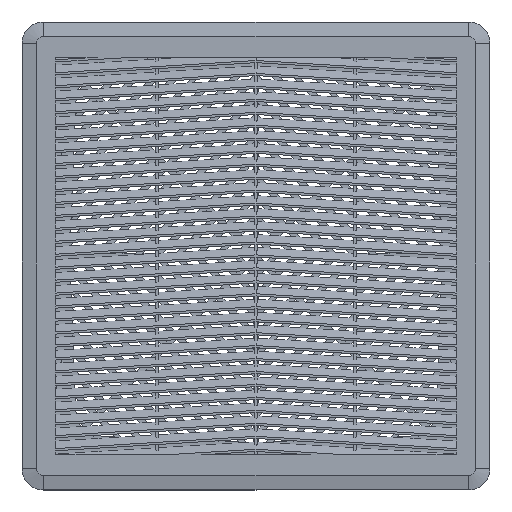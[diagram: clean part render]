
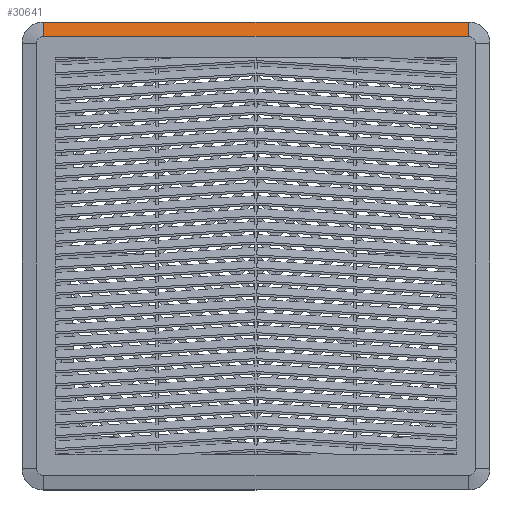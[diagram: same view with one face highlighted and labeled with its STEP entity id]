
A CAD part, top view. The second image highlights one B-rep face of the part: STEP entity #30641.
In plain terms, the highlighted planar face has unit normal (0, 0.208, 0.978).
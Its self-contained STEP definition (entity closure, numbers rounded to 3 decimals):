
#605 = FACE_OUTER_BOUND ( 'NONE', #32601, .T. ) ;
#1438 = CARTESIAN_POINT ( 'NONE',  ( 0., 152.5, 9.5 ) ) ;
#1440 = PLANE ( 'NONE',  #46485 ) ;
#1442 = DIRECTION ( 'NONE',  ( 0., 0.208, 0.978 ) ) ;
#1443 = DIRECTION ( 'NONE',  ( 1., 0., 0. ) ) ;
#1870 = VERTEX_POINT ( 'NONE', #8608 ) ;
#1872 = VERTEX_POINT ( 'NONE', #8609 ) ;
#1885 = VERTEX_POINT ( 'NONE', #8615 ) ;
#1922 = VERTEX_POINT ( 'NONE', #8632 ) ;
#3877 = LINE ( 'NONE', #4745, #4122 ) ;
#4117 = LINE ( 'NONE', #4987, #4120 ) ;
#4120 = VECTOR ( 'NONE', #4989, 1000. ) ;
#4122 = VECTOR ( 'NONE', #4990, 1000. ) ;
#4745 = CARTESIAN_POINT ( 'NONE',  ( -147.5, 152.5, 9.5 ) ) ;
#4987 = CARTESIAN_POINT ( 'NONE',  ( 147.5, 162.5, 7.374 ) ) ;
#4989 = DIRECTION ( 'NONE',  ( 0., -0.978, 0.208 ) ) ;
#4990 = DIRECTION ( 'NONE',  ( 0., 0.978, -0.208 ) ) ;
#8608 = CARTESIAN_POINT ( 'NONE',  ( -147.5, 152.5, 9.5 ) ) ;
#8609 = CARTESIAN_POINT ( 'NONE',  ( 147.5, 152.5, 9.5 ) ) ;
#8615 = CARTESIAN_POINT ( 'NONE',  ( 147.5, 162.5, 7.374 ) ) ;
#8632 = CARTESIAN_POINT ( 'NONE',  ( -147.5, 162.5, 7.374 ) ) ;
#14259 = ORIENTED_EDGE ( 'NONE', *, *, #43101, .F. ) ;
#14261 = ORIENTED_EDGE ( 'NONE', *, *, #20997, .F. ) ;
#14263 = ORIENTED_EDGE ( 'NONE', *, *, #43102, .F. ) ;
#14264 = ORIENTED_EDGE ( 'NONE', *, *, #21009, .F. ) ;
#20997 = EDGE_CURVE ( 'NONE', #1922, #1885, #24658, .T. ) ;
#21009 = EDGE_CURVE ( 'NONE', #1872, #1870, #24676, .T. ) ;
#24658 = LINE ( 'NONE', #25531, #24667 ) ;
#24667 = VECTOR ( 'NONE', #25544, 1000. ) ;
#24676 = LINE ( 'NONE', #25553, #24678 ) ;
#24678 = VECTOR ( 'NONE', #25554, 1000. ) ;
#25531 = CARTESIAN_POINT ( 'NONE',  ( 147.5, 162.5, 7.374 ) ) ;
#25544 = DIRECTION ( 'NONE',  ( 1., 0., 0. ) ) ;
#25553 = CARTESIAN_POINT ( 'NONE',  ( -147.5, 152.5, 9.5 ) ) ;
#25554 = DIRECTION ( 'NONE',  ( -1., 0., 0. ) ) ;
#30641 = ADVANCED_FACE ( 'NONE', ( #605 ), #1440, .T. ) ;
#32601 = EDGE_LOOP ( 'NONE', ( #14259, #14261, #14263, #14264 ) ) ;
#43101 = EDGE_CURVE ( 'NONE', #1885, #1872, #4117, .T. ) ;
#43102 = EDGE_CURVE ( 'NONE', #1870, #1922, #3877, .T. ) ;
#46485 = AXIS2_PLACEMENT_3D ( 'NONE', #1438, #1442, #1443 ) ;
